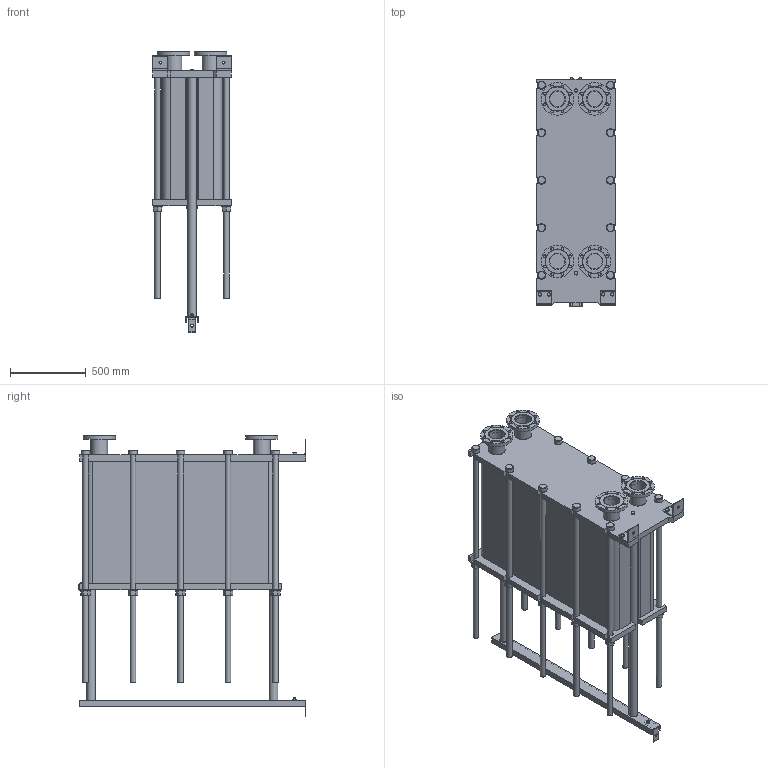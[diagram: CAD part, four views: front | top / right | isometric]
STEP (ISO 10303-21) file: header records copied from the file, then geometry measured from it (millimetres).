
FILE_DESCRIPTION(/* description */ (''),/* implementation_level */ '2;1');
FILE_NAME(/* name */ 'C:\Users\zhuro\Desktop\ENCO\TO\ЭН-04\ЭН-0,5-04-236-1.stp',/* time_stamp */ '2022-06-06T11:06:01+03:00',/* author */ ('zhuro'),/* organization */ (''),/* preprocessor_version */ 'ST-DEVELOPER v18.1',/* originating_system */ 'Autodesk Inventor 2022',/* authorisation */ '');
FILE_SCHEMA (('AUTOMOTIVE_DESIGN { 1 0 10303 214 3 1 1 }'));
Length unit declared in the file: millimetre
Products named in the file (1): ЭН-0,5-04-236-1
Bounding box: 520 x 1510 x 1863 mm (x, y, z)
Volume: 485428336.2 mm3; surface area: 11345914.8 mm2
Topology: 45 solids, 45 shells, 668 faces, 1611 edges, 1048 vertices
Faces by surface type: plane 457, cylinder 166, cone 39, torus 6
Full cylindrical faces by diameter (mm): 8 x4, 10 x2, 16 x8, 18 x35, 36 x25, 40 x2, 42 x1, 45 x4, 54 x10, 57 x2, 60 x10, 68 x2, 100 x4, 110 x8, 215 x4
Entity records: 23607 total; most frequent: CARTESIAN_POINT 7348, DIRECTION 3371, ORIENTED_EDGE 3142, EDGE_CURVE 1571, AXIS2_PLACEMENT_3D 1199, VERTEX_POINT 1044, LINE 973, VECTOR 973
